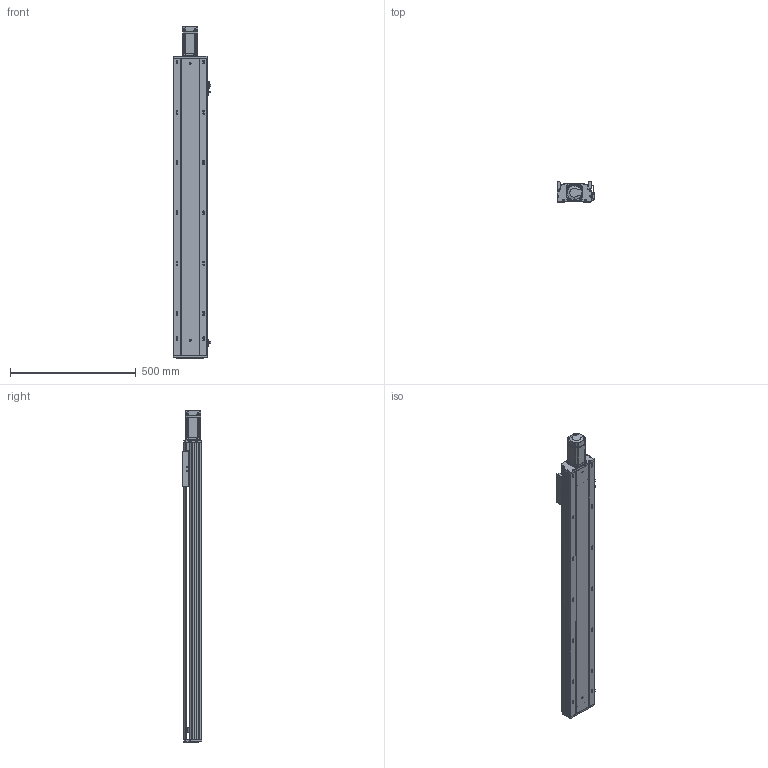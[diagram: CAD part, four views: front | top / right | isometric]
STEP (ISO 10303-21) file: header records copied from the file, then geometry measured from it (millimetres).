
FILE_DESCRIPTION (( 'STEP AP203' ), '1' );
FILE_NAME ('RY140Q-L2010-1000-MK.SLDASM_0950.step', '2021-05-27T07:34:17', ( '盈信电脑' ), ( '东莞市道滘镇水果街19号' ), 'SwSTEP 2.0', 'SolidWorks 2016', '' );
FILE_SCHEMA (( 'CONFIG_CONTROL_DESIGN' ));
Length unit declared in the file: millimetre
Products named in the file (13): 覜茼ん672; RY140ヶ裔啣; RY120外置感应片(140共用）; RY140Q萇儂傷盓傅釱FK12(80.5酗M5); 滅袉蝶18-10; 滅袉蝶18-15; 15; RY140Q-1000-MK倰第奻裔啣_0950; RY140Q臏賑輸(20佪裝-J; 侂狟400W侜督萇儂; RY140Q-L2010-1000-MK.SLDASM_0950; RY140綴裔啣; RY140Q-1000-MK倰第菁釱_0950
Assembly tree (15 placements, depth 3):
  RY140Q-L2010-1000-MK.SLDASM_0950
    RY140Q-1000-MK倰第菁釱_0950
    RY140Q臏賑輸(20佪裝-J
    RY140Q-1000-MK倰第奻裔啣_0950
    RY140ヶ裔啣
    侂狟400W侜督萇儂
      15
    RY140綴裔啣
    覜茼ん672  x3
    RY120外置感应片(140共用）
    RY140Q萇儂傷盓傅釱FK12(80.5酗M5)
    滅袉蝶18-10
    滅袉蝶18-15  x2
Bounding box: 148.7 x 78 x 1319.5 mm (x, y, z)
Volume: 3715473.6 mm3; surface area: 1356106.9 mm2
Topology: 14 solids, 14 shells, 2118 faces, 5853 edges, 3737 vertices
Faces by surface type: plane 1078, cylinder 748, cone 207, bspline 85
Entity records: 69809 total; most frequent: CARTESIAN_POINT 16720, ORIENTED_EDGE 10974, DIRECTION 10455, EDGE_CURVE 5487, VERTEX_POINT 3597, LINE 3517, VECTOR 3517, AXIS2_PLACEMENT_3D 3469
